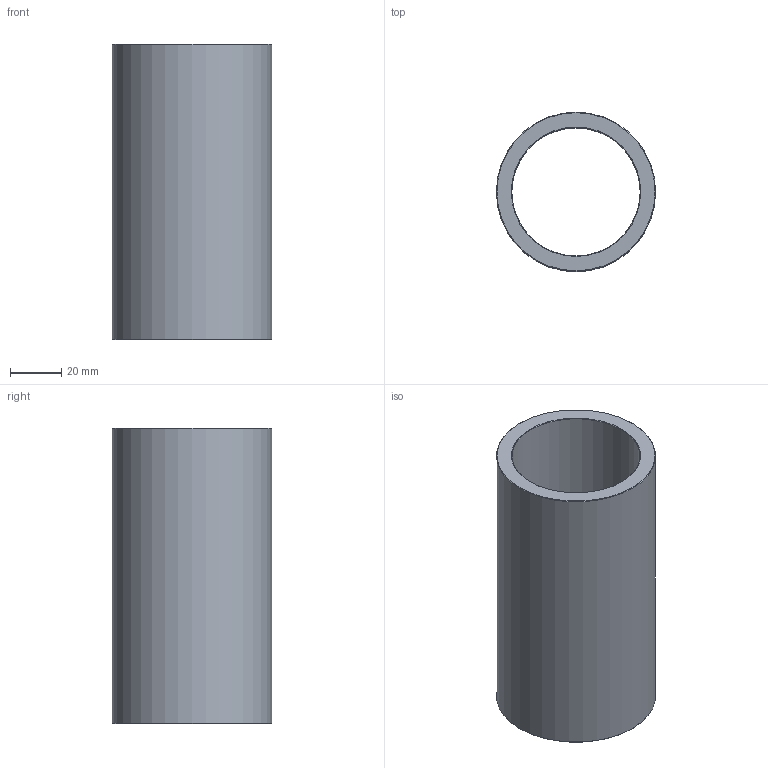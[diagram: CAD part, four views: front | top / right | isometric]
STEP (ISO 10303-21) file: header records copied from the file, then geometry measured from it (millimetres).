
FILE_DESCRIPTION(('STEP AP203'),'1');
FILE_NAME('C:/Users/Rodrigo/Desktop/GA6.050.115-1.step','2016-11-08T11:55:59',(' '),(' '),'Spatial InterOp 3D',' ',' ');
FILE_SCHEMA(('CONFIG_CONTROL_DESIGN'));
Length unit declared in the file: millimetre
Products named in the file (1): 1
Bounding box: 62 x 62 x 115 mm (x, y, z)
Volume: 121377.1 mm3; surface area: 42492.4 mm2
Topology: 1 solids, 1 shells, 8 faces, 14 edges, 8 vertices
Faces by surface type: cone 4, cylinder 2, plane 2
Full cylindrical faces by diameter (mm): 50 x1, 62 x1
Entity records: 212 total; most frequent: DIRECTION 34, CARTESIAN_POINT 25, AXIS2_PLACEMENT_3D 17, EDGE_LOOP 16, ORIENTED_EDGE 16, FACE_OUTER_BOUND 10, ADVANCED_FACE 8, EDGE_CURVE 8
